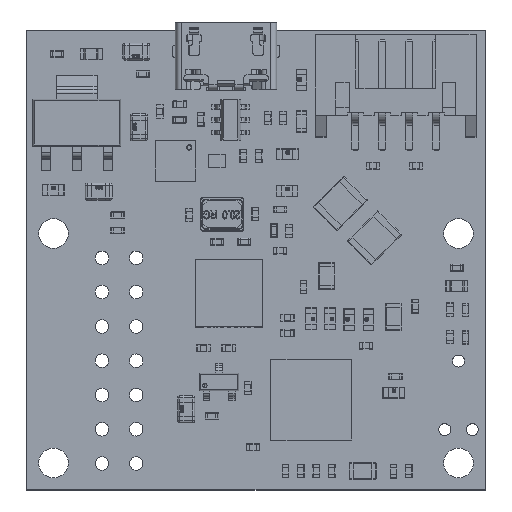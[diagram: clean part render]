
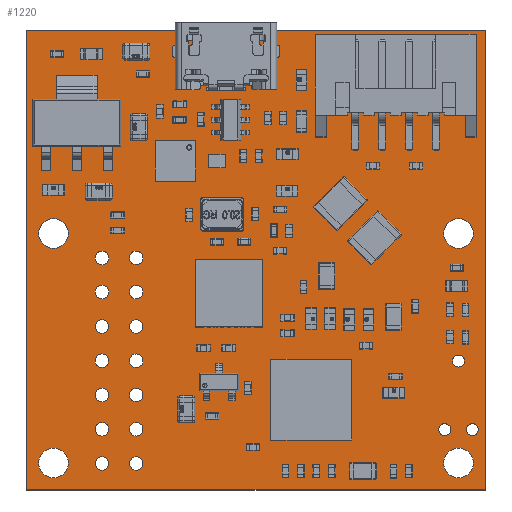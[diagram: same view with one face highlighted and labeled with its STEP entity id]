
A CAD part, top view. The second image highlights one B-rep face of the part: STEP entity #1220.
In plain terms, the highlighted planar face has unit normal (0, 0, 1).
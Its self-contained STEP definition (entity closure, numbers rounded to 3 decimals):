
#335 = VERTEX_POINT('',#336);
#336 = CARTESIAN_POINT('',(0.,0.,1.599));
#342 = EDGE_CURVE('',#335,#343,#345,.T.);
#343 = VERTEX_POINT('',#344);
#344 = CARTESIAN_POINT('',(0.,34.,1.599));
#345 = LINE('',#346,#347);
#346 = CARTESIAN_POINT('',(0.,0.,1.599));
#347 = VECTOR('',#348,1.);
#348 = DIRECTION('',(0.,1.,0.));
#373 = EDGE_CURVE('',#343,#374,#376,.T.);
#374 = VERTEX_POINT('',#375);
#375 = CARTESIAN_POINT('',(34.,34.,1.599));
#376 = LINE('',#377,#378);
#377 = CARTESIAN_POINT('',(0.,34.,1.599));
#378 = VECTOR('',#379,1.);
#379 = DIRECTION('',(1.,0.,0.));
#404 = EDGE_CURVE('',#374,#405,#407,.T.);
#405 = VERTEX_POINT('',#406);
#406 = CARTESIAN_POINT('',(34.,0.,1.599));
#407 = LINE('',#408,#409);
#408 = CARTESIAN_POINT('',(34.,34.,1.599));
#409 = VECTOR('',#410,1.);
#410 = DIRECTION('',(0.,-1.,0.));
#435 = EDGE_CURVE('',#405,#335,#436,.T.);
#436 = LINE('',#437,#438);
#437 = CARTESIAN_POINT('',(34.,0.,1.599));
#438 = VECTOR('',#439,1.);
#439 = DIRECTION('',(-1.,0.,0.));
#459 = VERTEX_POINT('',#460);
#460 = CARTESIAN_POINT('',(6.088,1.956,1.599));
#466 = EDGE_CURVE('',#459,#459,#467,.T.);
#467 = CIRCLE('',#468,0.5);
#468 = AXIS2_PLACEMENT_3D('',#469,#470,#471);
#469 = CARTESIAN_POINT('',(5.588,1.956,1.599));
#470 = DIRECTION('',(0.,0.,1.));
#471 = DIRECTION('',(1.,0.,0.));
#492 = VERTEX_POINT('',#493);
#493 = CARTESIAN_POINT('',(3.1,2.,1.599));
#499 = EDGE_CURVE('',#492,#492,#500,.T.);
#500 = CIRCLE('',#501,1.1);
#501 = AXIS2_PLACEMENT_3D('',#502,#503,#504);
#502 = CARTESIAN_POINT('',(2.,2.,1.599));
#503 = DIRECTION('',(0.,0.,1.));
#504 = DIRECTION('',(1.,0.,0.));
#525 = VERTEX_POINT('',#526);
#526 = CARTESIAN_POINT('',(6.088,4.496,1.599));
#532 = EDGE_CURVE('',#525,#525,#533,.T.);
#533 = CIRCLE('',#534,0.5);
#534 = AXIS2_PLACEMENT_3D('',#535,#536,#537);
#535 = CARTESIAN_POINT('',(5.588,4.496,1.599));
#536 = DIRECTION('',(0.,0.,1.));
#537 = DIRECTION('',(1.,0.,0.));
#558 = VERTEX_POINT('',#559);
#559 = CARTESIAN_POINT('',(6.088,7.036,1.599));
#565 = EDGE_CURVE('',#558,#558,#566,.T.);
#566 = CIRCLE('',#567,0.5);
#567 = AXIS2_PLACEMENT_3D('',#568,#569,#570);
#568 = CARTESIAN_POINT('',(5.588,7.036,1.599));
#569 = DIRECTION('',(0.,0.,1.));
#570 = DIRECTION('',(1.,0.,0.));
#591 = VERTEX_POINT('',#592);
#592 = CARTESIAN_POINT('',(8.628,7.036,1.599));
#598 = EDGE_CURVE('',#591,#591,#599,.T.);
#599 = CIRCLE('',#600,0.5);
#600 = AXIS2_PLACEMENT_3D('',#601,#602,#603);
#601 = CARTESIAN_POINT('',(8.128,7.036,1.599));
#602 = DIRECTION('',(0.,0.,1.));
#603 = DIRECTION('',(1.,0.,0.));
#624 = VERTEX_POINT('',#625);
#625 = CARTESIAN_POINT('',(6.088,17.196,1.599));
#631 = EDGE_CURVE('',#624,#624,#632,.T.);
#632 = CIRCLE('',#633,0.5);
#633 = AXIS2_PLACEMENT_3D('',#634,#635,#636);
#634 = CARTESIAN_POINT('',(5.588,17.196,1.599));
#635 = DIRECTION('',(0.,0.,1.));
#636 = DIRECTION('',(1.,0.,0.));
#657 = VERTEX_POINT('',#658);
#658 = CARTESIAN_POINT('',(3.1,19.,1.599));
#664 = EDGE_CURVE('',#657,#657,#665,.T.);
#665 = CIRCLE('',#666,1.1);
#666 = AXIS2_PLACEMENT_3D('',#667,#668,#669);
#667 = CARTESIAN_POINT('',(2.,19.,1.599));
#668 = DIRECTION('',(0.,0.,1.));
#669 = DIRECTION('',(1.,0.,0.));
#690 = VERTEX_POINT('',#691);
#691 = CARTESIAN_POINT('',(6.088,9.576,1.599));
#697 = EDGE_CURVE('',#690,#690,#698,.T.);
#698 = CIRCLE('',#699,0.5);
#699 = AXIS2_PLACEMENT_3D('',#700,#701,#702);
#700 = CARTESIAN_POINT('',(5.588,9.576,1.599));
#701 = DIRECTION('',(0.,0.,1.));
#702 = DIRECTION('',(1.,0.,0.));
#723 = VERTEX_POINT('',#724);
#724 = CARTESIAN_POINT('',(6.088,14.656,1.599));
#730 = EDGE_CURVE('',#723,#723,#731,.T.);
#731 = CIRCLE('',#732,0.5);
#732 = AXIS2_PLACEMENT_3D('',#733,#734,#735);
#733 = CARTESIAN_POINT('',(5.588,14.656,1.599));
#734 = DIRECTION('',(0.,0.,1.));
#735 = DIRECTION('',(1.,0.,0.));
#756 = VERTEX_POINT('',#757);
#757 = CARTESIAN_POINT('',(6.088,12.116,1.599));
#763 = EDGE_CURVE('',#756,#756,#764,.T.);
#764 = CIRCLE('',#765,0.5);
#765 = AXIS2_PLACEMENT_3D('',#766,#767,#768);
#766 = CARTESIAN_POINT('',(5.588,12.116,1.599));
#767 = DIRECTION('',(0.,0.,1.));
#768 = DIRECTION('',(1.,0.,0.));
#789 = VERTEX_POINT('',#790);
#790 = CARTESIAN_POINT('',(8.628,1.956,1.599));
#796 = EDGE_CURVE('',#789,#789,#797,.T.);
#797 = CIRCLE('',#798,0.5);
#798 = AXIS2_PLACEMENT_3D('',#799,#800,#801);
#799 = CARTESIAN_POINT('',(8.128,1.956,1.599));
#800 = DIRECTION('',(0.,0.,1.));
#801 = DIRECTION('',(1.,0.,0.));
#822 = VERTEX_POINT('',#823);
#823 = CARTESIAN_POINT('',(8.628,4.496,1.599));
#829 = EDGE_CURVE('',#822,#822,#830,.T.);
#830 = CIRCLE('',#831,0.5);
#831 = AXIS2_PLACEMENT_3D('',#832,#833,#834);
#832 = CARTESIAN_POINT('',(8.128,4.496,1.599));
#833 = DIRECTION('',(0.,0.,1.));
#834 = DIRECTION('',(1.,0.,0.));
#855 = VERTEX_POINT('',#856);
#856 = CARTESIAN_POINT('',(33.1,2.,1.599));
#862 = EDGE_CURVE('',#855,#855,#863,.T.);
#863 = CIRCLE('',#864,1.1);
#864 = AXIS2_PLACEMENT_3D('',#865,#866,#867);
#865 = CARTESIAN_POINT('',(32.,2.,1.599));
#866 = DIRECTION('',(0.,0.,1.));
#867 = DIRECTION('',(1.,0.,0.));
#888 = VERTEX_POINT('',#889);
#889 = CARTESIAN_POINT('',(31.433,4.47,1.599));
#895 = EDGE_CURVE('',#888,#888,#896,.T.);
#896 = CIRCLE('',#897,0.445);
#897 = AXIS2_PLACEMENT_3D('',#898,#899,#900);
#898 = CARTESIAN_POINT('',(30.988,4.47,1.599));
#899 = DIRECTION('',(0.,0.,1.));
#900 = DIRECTION('',(1.,0.,0.));
#921 = VERTEX_POINT('',#922);
#922 = CARTESIAN_POINT('',(33.465,4.47,1.599));
#928 = EDGE_CURVE('',#921,#921,#929,.T.);
#929 = CIRCLE('',#930,0.445);
#930 = AXIS2_PLACEMENT_3D('',#931,#932,#933);
#931 = CARTESIAN_POINT('',(33.02,4.47,1.599));
#932 = DIRECTION('',(0.,0.,1.));
#933 = DIRECTION('',(1.,0.,0.));
#954 = VERTEX_POINT('',#955);
#955 = CARTESIAN_POINT('',(8.628,9.576,1.599));
#961 = EDGE_CURVE('',#954,#954,#962,.T.);
#962 = CIRCLE('',#963,0.5);
#963 = AXIS2_PLACEMENT_3D('',#964,#965,#966);
#964 = CARTESIAN_POINT('',(8.128,9.576,1.599));
#965 = DIRECTION('',(0.,0.,1.));
#966 = DIRECTION('',(1.,0.,0.));
#987 = VERTEX_POINT('',#988);
#988 = CARTESIAN_POINT('',(8.628,14.656,1.599));
#994 = EDGE_CURVE('',#987,#987,#995,.T.);
#995 = CIRCLE('',#996,0.5);
#996 = AXIS2_PLACEMENT_3D('',#997,#998,#999);
#997 = CARTESIAN_POINT('',(8.128,14.656,1.599));
#998 = DIRECTION('',(0.,0.,1.));
#999 = DIRECTION('',(1.,0.,0.));
#1020 = VERTEX_POINT('',#1021);
#1021 = CARTESIAN_POINT('',(8.628,12.116,1.599));
#1027 = EDGE_CURVE('',#1020,#1020,#1028,.T.);
#1028 = CIRCLE('',#1029,0.5);
#1029 = AXIS2_PLACEMENT_3D('',#1030,#1031,#1032);
#1030 = CARTESIAN_POINT('',(8.128,12.116,1.599));
#1031 = DIRECTION('',(0.,0.,1.));
#1032 = DIRECTION('',(1.,0.,0.));
#1053 = VERTEX_POINT('',#1054);
#1054 = CARTESIAN_POINT('',(32.449,9.55,1.599));
#1060 = EDGE_CURVE('',#1053,#1053,#1061,.T.);
#1061 = CIRCLE('',#1062,0.445);
#1062 = AXIS2_PLACEMENT_3D('',#1063,#1064,#1065);
#1063 = CARTESIAN_POINT('',(32.004,9.55,1.599));
#1064 = DIRECTION('',(0.,0.,1.));
#1065 = DIRECTION('',(1.,0.,0.));
#1086 = VERTEX_POINT('',#1087);
#1087 = CARTESIAN_POINT('',(8.628,17.196,1.599));
#1093 = EDGE_CURVE('',#1086,#1086,#1094,.T.);
#1094 = CIRCLE('',#1095,0.5);
#1095 = AXIS2_PLACEMENT_3D('',#1096,#1097,#1098);
#1096 = CARTESIAN_POINT('',(8.128,17.196,1.599));
#1097 = DIRECTION('',(0.,0.,1.));
#1098 = DIRECTION('',(1.,0.,0.));
#1119 = VERTEX_POINT('',#1120);
#1120 = CARTESIAN_POINT('',(33.1,19.,1.599));
#1126 = EDGE_CURVE('',#1119,#1119,#1127,.T.);
#1127 = CIRCLE('',#1128,1.1);
#1128 = AXIS2_PLACEMENT_3D('',#1129,#1130,#1131);
#1129 = CARTESIAN_POINT('',(32.,19.,1.599));
#1130 = DIRECTION('',(0.,0.,1.));
#1131 = DIRECTION('',(1.,0.,0.));
#1220 = ADVANCED_FACE('',(#1221,#1227,#1230,#1233,#1236,#1239,#1242,
    #1245,#1248,#1251,#1254,#1257,#1260,#1263,#1266,#1269,#1272,#1275,
    #1278,#1281,#1284,#1287),#1290,.T.);
#1221 = FACE_BOUND('',#1222,.F.);
#1222 = EDGE_LOOP('',(#1223,#1224,#1225,#1226));
#1223 = ORIENTED_EDGE('',*,*,#342,.T.);
#1224 = ORIENTED_EDGE('',*,*,#373,.T.);
#1225 = ORIENTED_EDGE('',*,*,#404,.T.);
#1226 = ORIENTED_EDGE('',*,*,#435,.T.);
#1227 = FACE_BOUND('',#1228,.T.);
#1228 = EDGE_LOOP('',(#1229));
#1229 = ORIENTED_EDGE('',*,*,#466,.F.);
#1230 = FACE_BOUND('',#1231,.T.);
#1231 = EDGE_LOOP('',(#1232));
#1232 = ORIENTED_EDGE('',*,*,#499,.F.);
#1233 = FACE_BOUND('',#1234,.T.);
#1234 = EDGE_LOOP('',(#1235));
#1235 = ORIENTED_EDGE('',*,*,#532,.F.);
#1236 = FACE_BOUND('',#1237,.T.);
#1237 = EDGE_LOOP('',(#1238));
#1238 = ORIENTED_EDGE('',*,*,#565,.F.);
#1239 = FACE_BOUND('',#1240,.T.);
#1240 = EDGE_LOOP('',(#1241));
#1241 = ORIENTED_EDGE('',*,*,#598,.F.);
#1242 = FACE_BOUND('',#1243,.T.);
#1243 = EDGE_LOOP('',(#1244));
#1244 = ORIENTED_EDGE('',*,*,#631,.F.);
#1245 = FACE_BOUND('',#1246,.T.);
#1246 = EDGE_LOOP('',(#1247));
#1247 = ORIENTED_EDGE('',*,*,#664,.F.);
#1248 = FACE_BOUND('',#1249,.T.);
#1249 = EDGE_LOOP('',(#1250));
#1250 = ORIENTED_EDGE('',*,*,#697,.F.);
#1251 = FACE_BOUND('',#1252,.T.);
#1252 = EDGE_LOOP('',(#1253));
#1253 = ORIENTED_EDGE('',*,*,#730,.F.);
#1254 = FACE_BOUND('',#1255,.T.);
#1255 = EDGE_LOOP('',(#1256));
#1256 = ORIENTED_EDGE('',*,*,#763,.F.);
#1257 = FACE_BOUND('',#1258,.T.);
#1258 = EDGE_LOOP('',(#1259));
#1259 = ORIENTED_EDGE('',*,*,#796,.F.);
#1260 = FACE_BOUND('',#1261,.T.);
#1261 = EDGE_LOOP('',(#1262));
#1262 = ORIENTED_EDGE('',*,*,#829,.F.);
#1263 = FACE_BOUND('',#1264,.T.);
#1264 = EDGE_LOOP('',(#1265));
#1265 = ORIENTED_EDGE('',*,*,#862,.F.);
#1266 = FACE_BOUND('',#1267,.T.);
#1267 = EDGE_LOOP('',(#1268));
#1268 = ORIENTED_EDGE('',*,*,#895,.F.);
#1269 = FACE_BOUND('',#1270,.T.);
#1270 = EDGE_LOOP('',(#1271));
#1271 = ORIENTED_EDGE('',*,*,#928,.F.);
#1272 = FACE_BOUND('',#1273,.T.);
#1273 = EDGE_LOOP('',(#1274));
#1274 = ORIENTED_EDGE('',*,*,#961,.F.);
#1275 = FACE_BOUND('',#1276,.T.);
#1276 = EDGE_LOOP('',(#1277));
#1277 = ORIENTED_EDGE('',*,*,#994,.F.);
#1278 = FACE_BOUND('',#1279,.T.);
#1279 = EDGE_LOOP('',(#1280));
#1280 = ORIENTED_EDGE('',*,*,#1027,.F.);
#1281 = FACE_BOUND('',#1282,.T.);
#1282 = EDGE_LOOP('',(#1283));
#1283 = ORIENTED_EDGE('',*,*,#1060,.F.);
#1284 = FACE_BOUND('',#1285,.T.);
#1285 = EDGE_LOOP('',(#1286));
#1286 = ORIENTED_EDGE('',*,*,#1093,.F.);
#1287 = FACE_BOUND('',#1288,.T.);
#1288 = EDGE_LOOP('',(#1289));
#1289 = ORIENTED_EDGE('',*,*,#1126,.F.);
#1290 = PLANE('',#1291);
#1291 = AXIS2_PLACEMENT_3D('',#1292,#1293,#1294);
#1292 = CARTESIAN_POINT('',(0.,0.,1.599));
#1293 = DIRECTION('',(0.,0.,1.));
#1294 = DIRECTION('',(1.,0.,0.));
